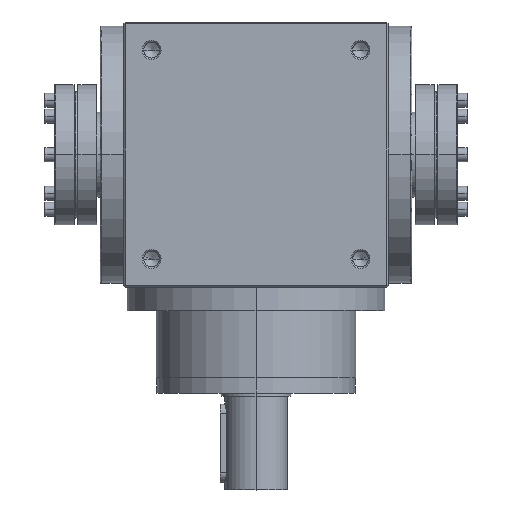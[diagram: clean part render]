
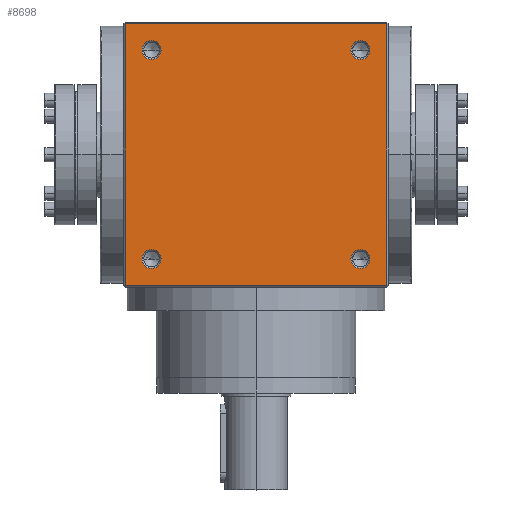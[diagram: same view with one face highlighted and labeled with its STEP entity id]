
A CAD part, top view. The second image highlights one B-rep face of the part: STEP entity #8698.
In plain terms, the highlighted planar face has unit normal (0, 0, 1).
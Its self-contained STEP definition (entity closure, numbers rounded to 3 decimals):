
#85 = FACE_BOUND ( 'NONE', #20698, .T. ) ;
#105 = EDGE_CURVE ( 'NONE', #19967, #1845, #7165, .T. ) ;
#160 = ORIENTED_EDGE ( 'NONE', *, *, #105, .F. ) ;
#353 = CARTESIAN_POINT ( 'NONE',  ( 84., -84., 85. ) ) ;
#650 = CARTESIAN_POINT ( 'NONE',  ( -60.9, 67., 85. ) ) ;
#797 = ORIENTED_EDGE ( 'NONE', *, *, #20429, .F. ) ;
#1046 = VERTEX_POINT ( 'NONE', #13112 ) ;
#1127 = CIRCLE ( 'NONE', #6588, 6.1 ) ;
#1425 = EDGE_CURVE ( 'NONE', #11591, #6492, #6324, .T. ) ;
#1541 = CIRCLE ( 'NONE', #3010, 6.1 ) ;
#1691 = CARTESIAN_POINT ( 'NONE',  ( 84., 0., 85. ) ) ;
#1695 = EDGE_CURVE ( 'NONE', #6496, #12050, #1541, .T. ) ;
#1845 = VERTEX_POINT ( 'NONE', #650 ) ;
#2205 = LINE ( 'NONE', #16899, #18966 ) ;
#3010 = AXIS2_PLACEMENT_3D ( 'NONE', #19002, #18978, #19124 ) ;
#3060 = DIRECTION ( 'NONE',  ( 0., 0., 1. ) ) ;
#3236 = DIRECTION ( 'NONE',  ( 0., 0., 1. ) ) ;
#3479 = AXIS2_PLACEMENT_3D ( 'NONE', #15907, #15953, #15955 ) ;
#4153 = DIRECTION ( 'NONE',  ( 0., 0., -1. ) ) ;
#4625 = FACE_BOUND ( 'NONE', #16411, .T. ) ;
#4664 = CARTESIAN_POINT ( 'NONE',  ( 67., -67., 85. ) ) ;
#4761 = CARTESIAN_POINT ( 'NONE',  ( -73.1, 67., 85. ) ) ;
#5080 = CARTESIAN_POINT ( 'NONE',  ( -67., 67., 85. ) ) ;
#5309 = ORIENTED_EDGE ( 'NONE', *, *, #1425, .F. ) ;
#5370 = CARTESIAN_POINT ( 'NONE',  ( 67., 67., 85. ) ) ;
#5666 = DIRECTION ( 'NONE',  ( 1., 0., 0. ) ) ;
#5712 = DIRECTION ( 'NONE',  ( 0., 0., 1. ) ) ;
#5769 = AXIS2_PLACEMENT_3D ( 'NONE', #6350, #5712, #5666 ) ;
#5786 = LINE ( 'NONE', #7660, #13637 ) ;
#5978 = ORIENTED_EDGE ( 'NONE', *, *, #1695, .F. ) ;
#6293 = VERTEX_POINT ( 'NONE', #7247 ) ;
#6324 = CIRCLE ( 'NONE', #3479, 6.1 ) ;
#6348 = DIRECTION ( 'NONE',  ( 1., 0., 0. ) ) ;
#6350 = CARTESIAN_POINT ( 'NONE',  ( -67., 67., 85. ) ) ;
#6492 = VERTEX_POINT ( 'NONE', #13153 ) ;
#6496 = VERTEX_POINT ( 'NONE', #8106 ) ;
#6588 = AXIS2_PLACEMENT_3D ( 'NONE', #13111, #3060, #14795 ) ;
#6756 = DIRECTION ( 'NONE',  ( 1., 0., 0. ) ) ;
#7049 = DIRECTION ( 'NONE',  ( 1., 0., 0. ) ) ;
#7103 = ORIENTED_EDGE ( 'NONE', *, *, #14911, .F. ) ;
#7165 = CIRCLE ( 'NONE', #5769, 6.1 ) ;
#7247 = CARTESIAN_POINT ( 'NONE',  ( 60.9, 67., 85. ) ) ;
#7660 = CARTESIAN_POINT ( 'NONE',  ( 0., -84., 85. ) ) ;
#8106 = CARTESIAN_POINT ( 'NONE',  ( -73.1, -67., 85. ) ) ;
#8586 = ORIENTED_EDGE ( 'NONE', *, *, #20997, .F. ) ;
#8698 = ADVANCED_FACE ( 'NONE', ( #17954, #4625, #85, #17451, #13008 ), #8845, .F. ) ;
#8714 = CARTESIAN_POINT ( 'NONE',  ( 84., -84., 85. ) ) ;
#8845 = PLANE ( 'NONE',  #15473 ) ;
#8971 = EDGE_CURVE ( 'NONE', #20041, #1046, #2205, .T. ) ;
#9525 = AXIS2_PLACEMENT_3D ( 'NONE', #4664, #16398, #6348 ) ;
#9553 = CIRCLE ( 'NONE', #9525, 6.1 ) ;
#10103 = DIRECTION ( 'NONE',  ( 0., -1., 0. ) ) ;
#10983 = DIRECTION ( 'NONE',  ( 1., 0., 0. ) ) ;
#11396 = EDGE_LOOP ( 'NONE', ( #15968, #160 ) ) ;
#11591 = VERTEX_POINT ( 'NONE', #14646 ) ;
#12050 = VERTEX_POINT ( 'NONE', #12871 ) ;
#12871 = CARTESIAN_POINT ( 'NONE',  ( -60.9, -67., 85. ) ) ;
#13008 = FACE_OUTER_BOUND ( 'NONE', #18802, .T. ) ;
#13111 = CARTESIAN_POINT ( 'NONE',  ( -67., -67., 85. ) ) ;
#13112 = CARTESIAN_POINT ( 'NONE',  ( -84., 84., 85. ) ) ;
#13153 = CARTESIAN_POINT ( 'NONE',  ( 73.1, -67., 85. ) ) ;
#13179 = LINE ( 'NONE', #13671, #21473 ) ;
#13277 = CARTESIAN_POINT ( 'NONE',  ( 67., 67., 85. ) ) ;
#13365 = CIRCLE ( 'NONE', #18513, 6.1 ) ;
#13617 = VERTEX_POINT ( 'NONE', #16584 ) ;
#13637 = VECTOR ( 'NONE', #10983, 1000. ) ;
#13671 = CARTESIAN_POINT ( 'NONE',  ( 0., 84., 85. ) ) ;
#13776 = VERTEX_POINT ( 'NONE', #8714 ) ;
#14150 = VERTEX_POINT ( 'NONE', #15130 ) ;
#14646 = CARTESIAN_POINT ( 'NONE',  ( 60.9, -67., 85. ) ) ;
#14795 = DIRECTION ( 'NONE',  ( 1., 0., 0. ) ) ;
#14800 = LINE ( 'NONE', #1691, #18670 ) ;
#14881 = ORIENTED_EDGE ( 'NONE', *, *, #19931, .F. ) ;
#14911 = EDGE_CURVE ( 'NONE', #6293, #14150, #19940, .T. ) ;
#14958 = DIRECTION ( 'NONE',  ( 1., 0., 0. ) ) ;
#15130 = CARTESIAN_POINT ( 'NONE',  ( 73.1, 67., 85. ) ) ;
#15269 = ORIENTED_EDGE ( 'NONE', *, *, #8971, .F. ) ;
#15452 = DIRECTION ( 'NONE',  ( 1., 0., 0. ) ) ;
#15473 = AXIS2_PLACEMENT_3D ( 'NONE', #353, #4153, #15895 ) ;
#15589 = EDGE_CURVE ( 'NONE', #20041, #13776, #5786, .T. ) ;
#15778 = EDGE_CURVE ( 'NONE', #1845, #19967, #13365, .T. ) ;
#15887 = EDGE_CURVE ( 'NONE', #14150, #6293, #16277, .T. ) ;
#15895 = DIRECTION ( 'NONE',  ( -1., 0., 0. ) ) ;
#15907 = CARTESIAN_POINT ( 'NONE',  ( 67., -67., 85. ) ) ;
#15953 = DIRECTION ( 'NONE',  ( 0., 0., 1. ) ) ;
#15955 = DIRECTION ( 'NONE',  ( 1., 0., 0. ) ) ;
#15968 = ORIENTED_EDGE ( 'NONE', *, *, #15778, .F. ) ;
#16277 = CIRCLE ( 'NONE', #17150, 6.1 ) ;
#16398 = DIRECTION ( 'NONE',  ( 0., 0., 1. ) ) ;
#16411 = EDGE_LOOP ( 'NONE', ( #20036, #7103 ) ) ;
#16584 = CARTESIAN_POINT ( 'NONE',  ( 84., 84., 85. ) ) ;
#16708 = CARTESIAN_POINT ( 'NONE',  ( -84., -84., 85. ) ) ;
#16801 = DIRECTION ( 'NONE',  ( 0., 0., 1. ) ) ;
#16899 = CARTESIAN_POINT ( 'NONE',  ( -84., 0., 85. ) ) ;
#17077 = DIRECTION ( 'NONE',  ( 0., 0., 1. ) ) ;
#17150 = AXIS2_PLACEMENT_3D ( 'NONE', #5370, #17077, #7049 ) ;
#17451 = FACE_BOUND ( 'NONE', #21340, .T. ) ;
#17572 = ORIENTED_EDGE ( 'NONE', *, *, #20076, .F. ) ;
#17954 = FACE_BOUND ( 'NONE', #11396, .T. ) ;
#17956 = AXIS2_PLACEMENT_3D ( 'NONE', #13277, #3236, #14958 ) ;
#18479 = ORIENTED_EDGE ( 'NONE', *, *, #15589, .T. ) ;
#18513 = AXIS2_PLACEMENT_3D ( 'NONE', #5080, #16801, #6756 ) ;
#18517 = DIRECTION ( 'NONE',  ( 0., 1., 0. ) ) ;
#18670 = VECTOR ( 'NONE', #10103, 1000. ) ;
#18802 = EDGE_LOOP ( 'NONE', ( #18479, #17572, #8586, #15269 ) ) ;
#18966 = VECTOR ( 'NONE', #18517, 1000. ) ;
#18978 = DIRECTION ( 'NONE',  ( 0., 0., 1. ) ) ;
#19002 = CARTESIAN_POINT ( 'NONE',  ( -67., -67., 85. ) ) ;
#19124 = DIRECTION ( 'NONE',  ( 1., 0., 0. ) ) ;
#19931 = EDGE_CURVE ( 'NONE', #12050, #6496, #1127, .T. ) ;
#19940 = CIRCLE ( 'NONE', #17956, 6.1 ) ;
#19967 = VERTEX_POINT ( 'NONE', #4761 ) ;
#20036 = ORIENTED_EDGE ( 'NONE', *, *, #15887, .F. ) ;
#20041 = VERTEX_POINT ( 'NONE', #16708 ) ;
#20076 = EDGE_CURVE ( 'NONE', #13617, #13776, #14800, .T. ) ;
#20429 = EDGE_CURVE ( 'NONE', #6492, #11591, #9553, .T. ) ;
#20698 = EDGE_LOOP ( 'NONE', ( #14881, #5978 ) ) ;
#20997 = EDGE_CURVE ( 'NONE', #1046, #13617, #13179, .T. ) ;
#21340 = EDGE_LOOP ( 'NONE', ( #797, #5309 ) ) ;
#21473 = VECTOR ( 'NONE', #15452, 1000. ) ;
